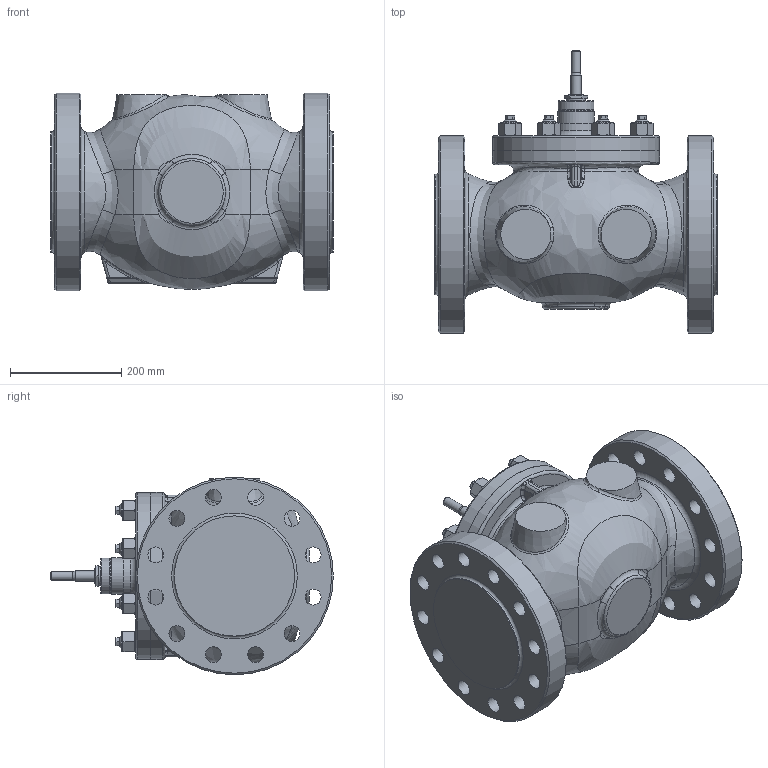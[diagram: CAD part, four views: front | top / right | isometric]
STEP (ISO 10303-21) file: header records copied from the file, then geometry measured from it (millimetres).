
FILE_DESCRIPTION(/* description */ (''),/* implementation_level */ '2;1');
FILE_NAME(/* name */ 'CV3xx_NPS_6_priruba_CL600.stp',/* time_stamp */ '2014-01-07T06:46:59+01:00',/* author */ (''),/* organization */ ('LDM'),/* preprocessor_version */ 'ST-DEVELOPER v11',/* originating_system */ 'SIEMENS PLM Software NX 7.0',/* authorisation */ '');
FILE_SCHEMA (('CONFIG_CONTROL_DESIGN'));
Length unit declared in the file: millimetre
Products named in the file (1): adamED63ysy7
Bounding box: 508 x 507.5 x 355 mm (x, y, z)
Volume: 36422377.3 mm3; surface area: 1103871.1 mm2
Topology: 1 solids, 8 shells, 622 faces, 1421 edges, 850 vertices
Faces by surface type: cone 187, plane 185, cylinder 125, bspline 80, torus 33, sphere 12
Full cylindrical faces by diameter (mm): 16 x1, 18 x1, 24 x24, 27 x1, 28.6 x24, 33 x1, 36 x16, 61.6 x1, 64 x1, 65 x1, 75 x1, 200 x1, 215.9 x2, 300 x2, 355 x2
Entity records: 19767 total; most frequent: CARTESIAN_POINT 7460, ORIENTED_EDGE 2426, DIRECTION 2370, EDGE_CURVE 1213, AXIS2_PLACEMENT_3D 1070, EDGE_LOOP 870, VERTEX_POINT 777, ADVANCED_FACE 622
